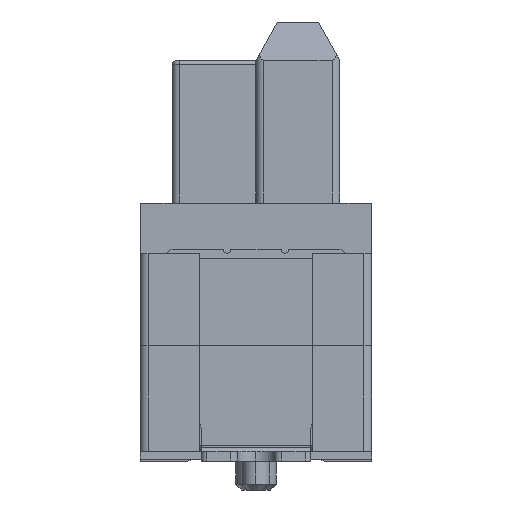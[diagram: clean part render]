
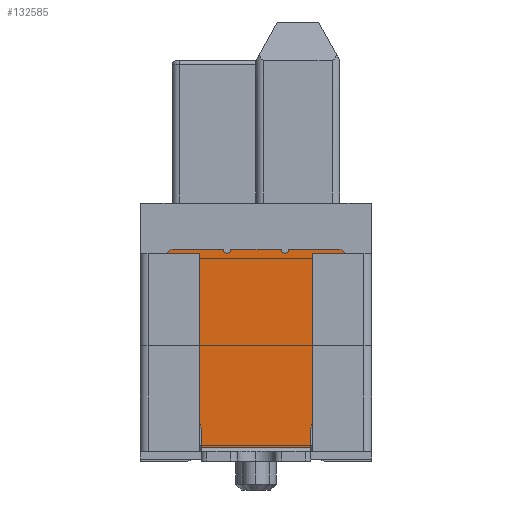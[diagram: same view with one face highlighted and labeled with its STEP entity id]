
A CAD part, left-side view. The second image highlights one B-rep face of the part: STEP entity #132585.
In plain terms, the highlighted planar face has unit normal (-1, 0, 0).
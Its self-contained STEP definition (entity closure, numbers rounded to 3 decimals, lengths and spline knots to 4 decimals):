
#132273=CARTESIAN_POINT('Line Origine',(-35.15,0.,5.45)) ;
#132277=CARTESIAN_POINT('Vertex',(-35.15,0.65,5.45)) ;
#132279=CARTESIAN_POINT('Vertex',(-35.15,-0.65,5.45)) ;
#132308=CARTESIAN_POINT('Axis2P3D Location',(-35.15,0.75,5.45)) ;
#132312=CARTESIAN_POINT('Vertex',(-35.15,0.85,5.45)) ;
#132454=CARTESIAN_POINT('Axis2P3D Location',(-35.15,-0.75,5.45)) ;
#132458=CARTESIAN_POINT('Vertex',(-35.15,-0.85,5.45)) ;
#132473=CARTESIAN_POINT('Axis2P3D Location',(-35.15,0.,0.)) ;
#132478=CARTESIAN_POINT('Line Origine',(-35.15,1.5,5.45)) ;
#132482=CARTESIAN_POINT('Vertex',(-35.15,2.15,5.45)) ;
#132485=CARTESIAN_POINT('Axis2P3D Location',(-35.15,2.15,5.3)) ;
#132489=CARTESIAN_POINT('Vertex',(-35.15,2.3,5.3)) ;
#132492=CARTESIAN_POINT('Line Origine',(-35.15,2.3,3.15)) ;
#132496=CARTESIAN_POINT('Vertex',(-35.15,2.3,1.)) ;
#132499=CARTESIAN_POINT('Line Origine',(-35.15,1.9625,1.)) ;
#132503=CARTESIAN_POINT('Vertex',(-35.15,1.625,1.)) ;
#132506=CARTESIAN_POINT('Axis2P3D Location',(-35.15,1.625,0.8)) ;
#132510=CARTESIAN_POINT('Vertex',(-35.15,1.425,0.8)) ;
#132513=CARTESIAN_POINT('Line Origine',(-35.15,1.425,0.55)) ;
#132517=CARTESIAN_POINT('Vertex',(-35.15,1.425,0.3)) ;
#132520=CARTESIAN_POINT('Line Origine',(-35.15,0.,0.3)) ;
#132524=CARTESIAN_POINT('Vertex',(-35.15,-1.425,0.3)) ;
#132527=CARTESIAN_POINT('Line Origine',(-35.15,-1.425,0.55)) ;
#132531=CARTESIAN_POINT('Vertex',(-35.15,-1.425,0.8)) ;
#132534=CARTESIAN_POINT('Axis2P3D Location',(-35.15,-1.625,0.8)) ;
#132538=CARTESIAN_POINT('Vertex',(-35.15,-1.625,1.)) ;
#132541=CARTESIAN_POINT('Line Origine',(-35.15,-1.9625,1.)) ;
#132545=CARTESIAN_POINT('Vertex',(-35.15,-2.3,1.)) ;
#132548=CARTESIAN_POINT('Line Origine',(-35.15,-2.3,3.15)) ;
#132552=CARTESIAN_POINT('Vertex',(-35.15,-2.3,5.3)) ;
#132555=CARTESIAN_POINT('Axis2P3D Location',(-35.15,-2.15,5.3)) ;
#132559=CARTESIAN_POINT('Vertex',(-35.15,-2.15,5.45)) ;
#132562=CARTESIAN_POINT('Line Origine',(-35.15,-1.5,5.45)) ;
#132274=DIRECTION('Vector Direction',(0.,-1.,0.)) ;
#132309=DIRECTION('Axis2P3D Direction',(1.,0.,0.)) ;
#132455=DIRECTION('Axis2P3D Direction',(1.,0.,0.)) ;
#132474=DIRECTION('Axis2P3D Direction',(1.,0.,0.)) ;
#132475=DIRECTION('Axis2P3D XDirection',(0.,1.,0.)) ;
#132479=DIRECTION('Vector Direction',(0.,1.,0.)) ;
#132486=DIRECTION('Axis2P3D Direction',(1.,0.,0.)) ;
#132493=DIRECTION('Vector Direction',(0.,0.,-1.)) ;
#132500=DIRECTION('Vector Direction',(0.,-1.,0.)) ;
#132507=DIRECTION('Axis2P3D Direction',(1.,0.,0.)) ;
#132514=DIRECTION('Vector Direction',(0.,0.,-1.)) ;
#132521=DIRECTION('Vector Direction',(0.,1.,0.)) ;
#132528=DIRECTION('Vector Direction',(0.,0.,-1.)) ;
#132535=DIRECTION('Axis2P3D Direction',(1.,0.,0.)) ;
#132542=DIRECTION('Vector Direction',(0.,1.,0.)) ;
#132549=DIRECTION('Vector Direction',(0.,0.,-1.)) ;
#132556=DIRECTION('Axis2P3D Direction',(1.,0.,0.)) ;
#132563=DIRECTION('Vector Direction',(0.,-1.,0.)) ;
#132310=AXIS2_PLACEMENT_3D('Circle Axis2P3D',#132308,#132309,$) ;
#132456=AXIS2_PLACEMENT_3D('Circle Axis2P3D',#132454,#132455,$) ;
#132476=AXIS2_PLACEMENT_3D('Plane Axis2P3D',#132473,#132474,#132475) ;
#132487=AXIS2_PLACEMENT_3D('Circle Axis2P3D',#132485,#132486,$) ;
#132508=AXIS2_PLACEMENT_3D('Circle Axis2P3D',#132506,#132507,$) ;
#132536=AXIS2_PLACEMENT_3D('Circle Axis2P3D',#132534,#132535,$) ;
#132557=AXIS2_PLACEMENT_3D('Circle Axis2P3D',#132555,#132556,$) ;
#132568=ORIENTED_EDGE('',*,*,#132314,.F.) ;
#132569=ORIENTED_EDGE('',*,*,#132484,.F.) ;
#132570=ORIENTED_EDGE('',*,*,#132491,.F.) ;
#132571=ORIENTED_EDGE('',*,*,#132498,.F.) ;
#132572=ORIENTED_EDGE('',*,*,#132505,.F.) ;
#132573=ORIENTED_EDGE('',*,*,#132512,.F.) ;
#132574=ORIENTED_EDGE('',*,*,#132519,.F.) ;
#132575=ORIENTED_EDGE('',*,*,#132526,.T.) ;
#132576=ORIENTED_EDGE('',*,*,#132533,.F.) ;
#132577=ORIENTED_EDGE('',*,*,#132540,.F.) ;
#132578=ORIENTED_EDGE('',*,*,#132547,.F.) ;
#132579=ORIENTED_EDGE('',*,*,#132554,.F.) ;
#132580=ORIENTED_EDGE('',*,*,#132561,.F.) ;
#132581=ORIENTED_EDGE('',*,*,#132566,.F.) ;
#132582=ORIENTED_EDGE('',*,*,#132460,.F.) ;
#132583=ORIENTED_EDGE('',*,*,#132281,.F.) ;
#132275=VECTOR('Line Direction',#132274,1.) ;
#132480=VECTOR('Line Direction',#132479,1.) ;
#132494=VECTOR('Line Direction',#132493,1.) ;
#132501=VECTOR('Line Direction',#132500,1.) ;
#132515=VECTOR('Line Direction',#132514,1.) ;
#132522=VECTOR('Line Direction',#132521,1.) ;
#132529=VECTOR('Line Direction',#132528,1.) ;
#132543=VECTOR('Line Direction',#132542,1.) ;
#132550=VECTOR('Line Direction',#132549,1.) ;
#132564=VECTOR('Line Direction',#132563,1.) ;
#132585=ADVANCED_FACE('\X2\8D347247\X0\',(#132584),#132477,.F.) ;
#132311=CIRCLE('generated circle',#132310,0.1) ;
#132457=CIRCLE('generated circle',#132456,0.1) ;
#132488=CIRCLE('generated circle',#132487,0.15) ;
#132509=CIRCLE('generated circle',#132508,0.2) ;
#132537=CIRCLE('generated circle',#132536,0.2) ;
#132558=CIRCLE('generated circle',#132557,0.15) ;
#132281=EDGE_CURVE('',#132278,#132280,#132276,.T.) ;
#132314=EDGE_CURVE('',#132313,#132278,#132311,.F.) ;
#132460=EDGE_CURVE('',#132280,#132459,#132457,.F.) ;
#132484=EDGE_CURVE('',#132483,#132313,#132481,.F.) ;
#132491=EDGE_CURVE('',#132490,#132483,#132488,.T.) ;
#132498=EDGE_CURVE('',#132497,#132490,#132495,.F.) ;
#132505=EDGE_CURVE('',#132504,#132497,#132502,.F.) ;
#132512=EDGE_CURVE('',#132511,#132504,#132509,.F.) ;
#132519=EDGE_CURVE('',#132518,#132511,#132516,.F.) ;
#132526=EDGE_CURVE('',#132518,#132525,#132523,.F.) ;
#132533=EDGE_CURVE('',#132532,#132525,#132530,.T.) ;
#132540=EDGE_CURVE('',#132539,#132532,#132537,.F.) ;
#132547=EDGE_CURVE('',#132546,#132539,#132544,.T.) ;
#132554=EDGE_CURVE('',#132553,#132546,#132551,.T.) ;
#132561=EDGE_CURVE('',#132560,#132553,#132558,.T.) ;
#132566=EDGE_CURVE('',#132459,#132560,#132565,.T.) ;
#132567=EDGE_LOOP('',(#132568,#132569,#132570,#132571,#132572,#132573,#132574,#132575,#132576,#132577,#132578,#132579,#132580,#132581,#132582,#132583)) ;
#132584=FACE_OUTER_BOUND('',#132567,.T.) ;
#132276=LINE('Line',#132273,#132275) ;
#132481=LINE('Line',#132478,#132480) ;
#132495=LINE('Line',#132492,#132494) ;
#132502=LINE('Line',#132499,#132501) ;
#132516=LINE('Line',#132513,#132515) ;
#132523=LINE('Line',#132520,#132522) ;
#132530=LINE('Line',#132527,#132529) ;
#132544=LINE('Line',#132541,#132543) ;
#132551=LINE('Line',#132548,#132550) ;
#132565=LINE('Line',#132562,#132564) ;
#132477=PLANE('Plane',#132476) ;
#132278=VERTEX_POINT('',#132277) ;
#132280=VERTEX_POINT('',#132279) ;
#132313=VERTEX_POINT('',#132312) ;
#132459=VERTEX_POINT('',#132458) ;
#132483=VERTEX_POINT('',#132482) ;
#132490=VERTEX_POINT('',#132489) ;
#132497=VERTEX_POINT('',#132496) ;
#132504=VERTEX_POINT('',#132503) ;
#132511=VERTEX_POINT('',#132510) ;
#132518=VERTEX_POINT('',#132517) ;
#132525=VERTEX_POINT('',#132524) ;
#132532=VERTEX_POINT('',#132531) ;
#132539=VERTEX_POINT('',#132538) ;
#132546=VERTEX_POINT('',#132545) ;
#132553=VERTEX_POINT('',#132552) ;
#132560=VERTEX_POINT('',#132559) ;
